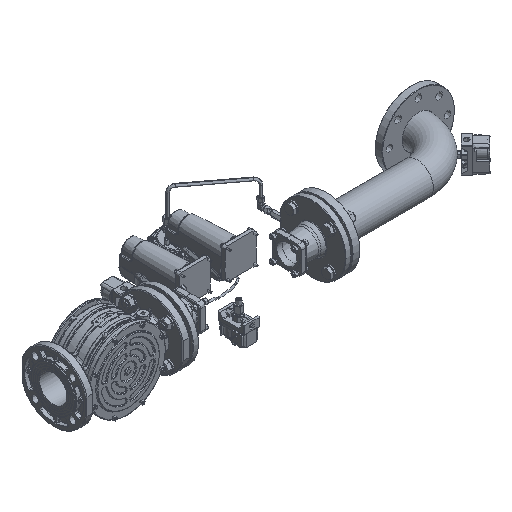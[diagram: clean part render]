
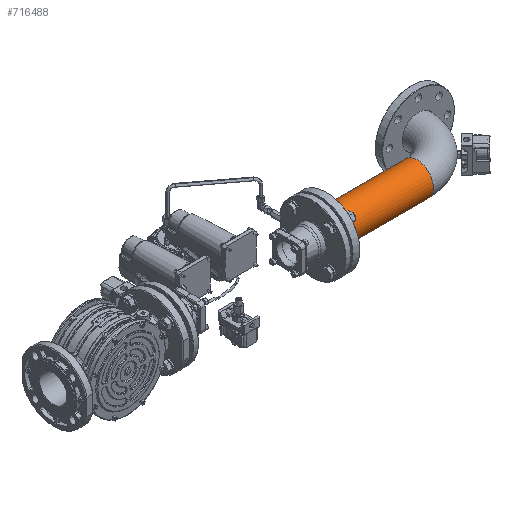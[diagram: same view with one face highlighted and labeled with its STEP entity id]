
A CAD part, isometric view. The second image highlights one B-rep face of the part: STEP entity #716488.
In plain terms, the highlighted cylindrical face has radius 44.45 mm (diameter 88.9 mm), a full revolution.
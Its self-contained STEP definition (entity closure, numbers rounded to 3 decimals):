
#12333 = CYLINDRICAL_SURFACE ( 'NONE', #157028, 44.45 ) ;
#35447 = EDGE_LOOP ( 'NONE', ( #437645 ) ) ;
#73904 = EDGE_CURVE ( 'NONE', #428232, #428232, #268026, .T. ) ;
#125692 = FACE_OUTER_BOUND ( 'NONE', #35447, .T. ) ;
#131727 = CARTESIAN_POINT ( 'NONE',  ( -50., 114.5, 0. ) ) ;
#134353 = DIRECTION ( 'NONE',  ( -1., 0., 0. ) ) ;
#136556 = DIRECTION ( 'NONE',  ( 0., 0., 1. ) ) ;
#157028 = AXIS2_PLACEMENT_3D ( 'NONE', #525183, #415181, #136556 ) ;
#182166 = DIRECTION ( 'NONE',  ( 0., 0., -1. ) ) ;
#268026 = CIRCLE ( 'NONE', #607105, 44.45 ) ;
#283634 = CIRCLE ( 'NONE', #552548, 44.45 ) ;
#355279 = DIRECTION ( 'NONE',  ( 0., 0., -1. ) ) ;
#370086 = EDGE_CURVE ( 'NONE', #660175, #660175, #283634, .T. ) ;
#380446 = CARTESIAN_POINT ( 'NONE',  ( -50., 114.5, -44.45 ) ) ;
#415181 = DIRECTION ( 'NONE',  ( 1., 0., 0. ) ) ;
#428232 = VERTEX_POINT ( 'NONE', #380446 ) ;
#437645 = ORIENTED_EDGE ( 'NONE', *, *, #370086, .T. ) ;
#525183 = CARTESIAN_POINT ( 'NONE',  ( -50., 114.5, 0. ) ) ;
#538419 = DIRECTION ( 'NONE',  ( -1., 0., 0. ) ) ;
#552548 = AXIS2_PLACEMENT_3D ( 'NONE', #636517, #134353, #182166 ) ;
#558630 = ORIENTED_EDGE ( 'NONE', *, *, #73904, .F. ) ;
#590913 = CARTESIAN_POINT ( 'NONE',  ( 210., 114.5, -44.45 ) ) ;
#607105 = AXIS2_PLACEMENT_3D ( 'NONE', #131727, #538419, #355279 ) ;
#636517 = CARTESIAN_POINT ( 'NONE',  ( 210., 114.5, 0. ) ) ;
#660175 = VERTEX_POINT ( 'NONE', #590913 ) ;
#686416 = FACE_OUTER_BOUND ( 'NONE', #717681, .T. ) ;
#716488 = ADVANCED_FACE ( 'NONE', ( #686416, #125692 ), #12333, .T. ) ;
#717681 = EDGE_LOOP ( 'NONE', ( #558630 ) ) ;
